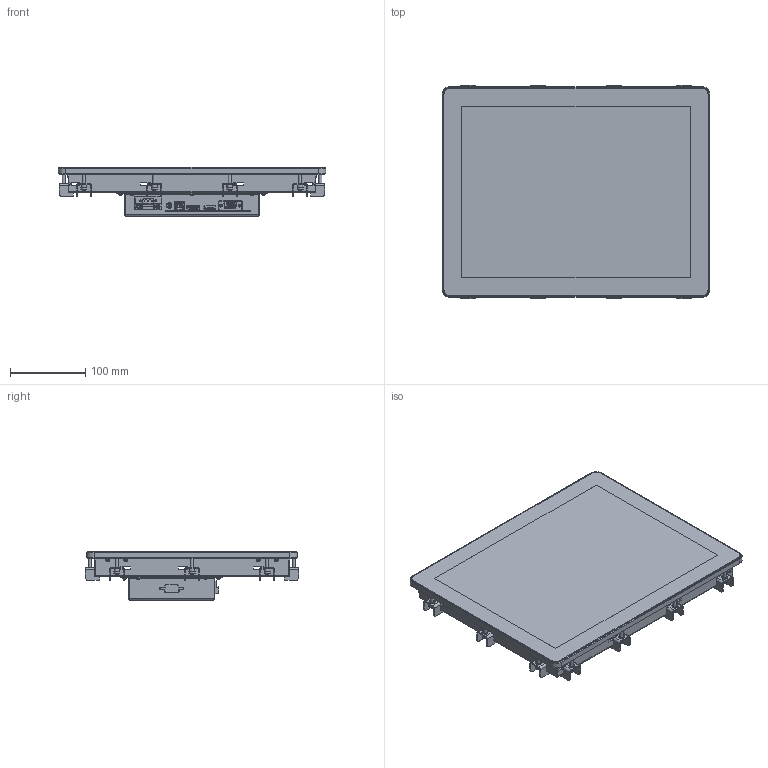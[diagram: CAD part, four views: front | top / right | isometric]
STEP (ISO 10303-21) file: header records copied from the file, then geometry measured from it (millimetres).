
FILE_DESCRIPTION (( 'STEP AP203' ), '1' );
FILE_NAME ('S150S-MON.STEP', '2026-07-15T14:43:14', ( '' ), ( '' ), 'SwSTEP 2.0', 'SolidWorks 2025', '' );
FILE_SCHEMA (( 'CONFIG_CONTROL_DESIGN' ));
Length unit declared in the file: millimetre
Products named in the file (25): MBR-10 Mounting bracket; SO-3,5M3-6-ZI Inpersafstandsteun; DFK-MSTB 2,5 3-GF-5,08; SO4-M4-6 Inpersafstandsteun; Pakking 8x2 celrubber^S150S-00 assembly; S150S-MON; TF-F-M3 Inpersmoer; MPS-150-10 Mounting plate; C08-1525NPH; S150S-10 Bezel; DC002; CMI G150XNE-L03; BC-TFT-OF6-11 Small backcover; DIN EN ISO 7046-1 - M3 x 6 - Z - 6N_DIN EN ISO 7046-1 - M3 x 6 - Z - 6N; TLV-C08-IO Input sticker; CPCB membrame key pad; sn sticker^TFT-OF6S-00 Small backcover assembly; TLV-C08-24V sticker; EG-15-319-0403V1; DIN EN ISO 7045 - M3 x 4 - Z - 4N_DIN EN ISO 7045 - M3 x 4 - Z - 4N; DIN EN ISO 7045 - M4 x 20 - Z - 20N_DIN EN ISO 7045 - M4 x 20 - Z - 20N; TFT-OF6S-00 Small backcover assembly_Monitor componenten
Assembly tree (79 placements, depth 4):
  S150S-MON
    S150S-10 Bezel
    MPS-150-10 Mounting plate
      MPS-150-10 Mounting plate
      TF-F-M3 Inpersmoer  x10
    EG-15-319-0403V1
    CMI G150XNE-L03
    Pakking 8x2 celrubber^S150S-00 assembly
    TFT-OF6S-00 Small backcover assembly_Monitor componenten
      BC-TFT-OF6-11 Small backcover
        BC-TFT-OF6-11 Small backcover
        SO-3,5M3-6-ZI Inpersafstandsteun  x6
        TF-F-M3 Inpersmoer  x2
      C08-1525NPH
      DC002
      DFK-MSTB 2,5 3-GF-5,08
      CPCB membrame key pad
      TLV-C08-24V sticker
      TLV-C08-IO Input sticker
      sn sticker^TFT-OF6S-00 Small backcover assembly
    MBR-10 Mounting bracket  x14
      MBR-10 Mounting bracket
      SO4-M4-6 Inpersafstandsteun
      DIN EN ISO 7045 - M4 x 20 - Z - 20N_DIN EN ISO 7045 - M4 x 20 - Z - 20N
    DIN EN ISO 7045 - M3 x 4 - Z - 4N_DIN EN ISO 7045 - M3 x 4 - Z - 4N  x10
    DIN EN ISO 7046-1 - M3 x 6 - Z - 6N_DIN EN ISO 7046-1 - M3 x 6 - Z - 6N  x18
Bounding box: 356 x 283.5 x 65.66 mm (x, y, z)
Volume: 1348680 mm3; surface area: 834761.1 mm2
Topology: 100 solids, 658 shells, 6459 faces, 19441 edges, 13589 vertices
Faces by surface type: plane 4729, cylinder 1036, cone 389, bspline 178, torus 97, sphere 30
Full cylindrical faces by diameter (mm): 0.1 x1, 0.2 x1, 0.434 x1, 0.8 x16, 1 x3, 1.2 x1, 1.27 x15, 2 x1, 2.5 x38, 2.8 x2, 3 x30, 3.5 x16, 3.6 x2, 4 x28, 4.3 x10, 4.41 x2, 4.75 x18, 5.4 x6, 5.49 x6, 5.5 x18, 5.6 x10, 6 x2, 6.3 x1, 6.6 x2, 7.1 x14, 7.22 x14, 7.5 x1, 8 x16
Entity records: 167122 total; most frequent: CARTESIAN_POINT 45644, ORIENTED_EDGE 22225, DIRECTION 21689, EDGE_CURVE 14086, VERTEX_POINT 10425, LINE 10215, VECTOR 10215, AXIS2_PLACEMENT_3D 5737
